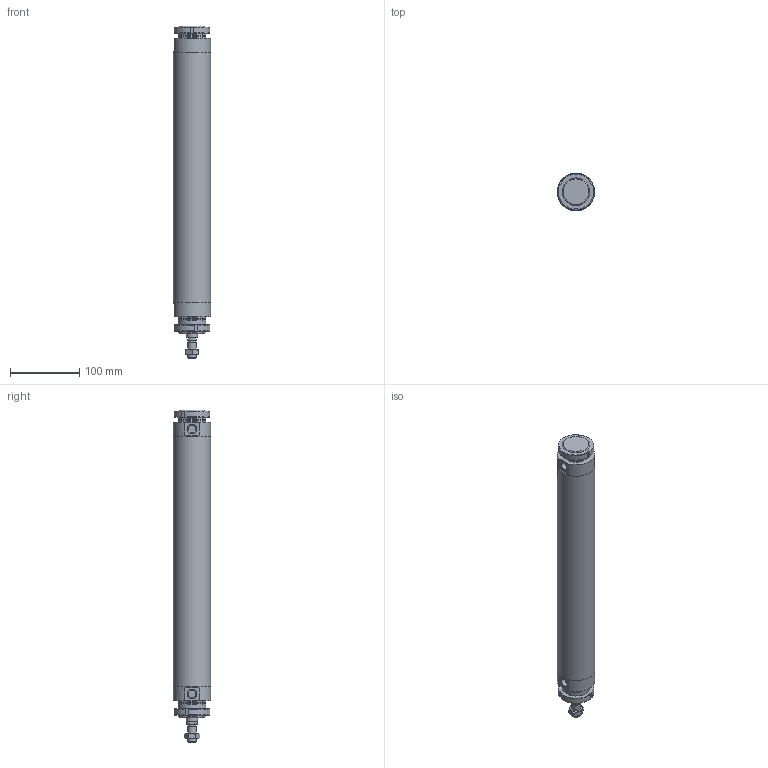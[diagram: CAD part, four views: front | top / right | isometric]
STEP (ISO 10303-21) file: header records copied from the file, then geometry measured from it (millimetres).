
FILE_DESCRIPTION(/* description */ (''),/* implementation_level */ '2;1');
FILE_NAME(/* name */ 'I:\Area Tecnica\Documenti\A-Manieri\_Inventor\12X\12X#C_###_####_#_#\12XAC_050_0320_#_#.stp',/* time_stamp */ '2015-04-28T15:20:09+02:00',/* author */ ('maniean1'),/* organization */ ('Pneumax S.p.A.'),/* preprocessor_version */ 'ST-DEVELOPER v15.2',/* originating_system */ 'Autodesk Inventor 2014',/* authorisation */ '');
FILE_SCHEMA (('AUTOMOTIVE_DESIGN { 1 0 10303 214 3 1 1 }'));
Length unit declared in the file: millimetre
Products named in the file (7): C1250_619-0320; 12X50_604; S12X50_0320; 12X_50_11; 12X50_620; G12X_050_05; 12XAC_050_0320_#_#
Bounding box: 54 x 54 x 480 mm (x, y, z)
Volume: 430313.9 mm3; surface area: 182343.9 mm2
Topology: 7 solids, 7 shells, 106 faces, 240 edges, 154 vertices
Faces by surface type: plane 52, cylinder 27, cone 27
Full cylindrical faces by diameter (mm): 10.2 x1, 11.4 x2, 12 x2, 14 x1, 15.6 x1, 16 x1, 38.2 x2, 40 x6, 50 x2, 54 x3
Entity records: 2243 total; most frequent: CARTESIAN_POINT 413, DIRECTION 382, ORIENTED_EDGE 292, AXIS2_PLACEMENT_3D 165, EDGE_CURVE 146, EDGE_LOOP 132, VERTEX_POINT 112, ADVANCED_FACE 85
